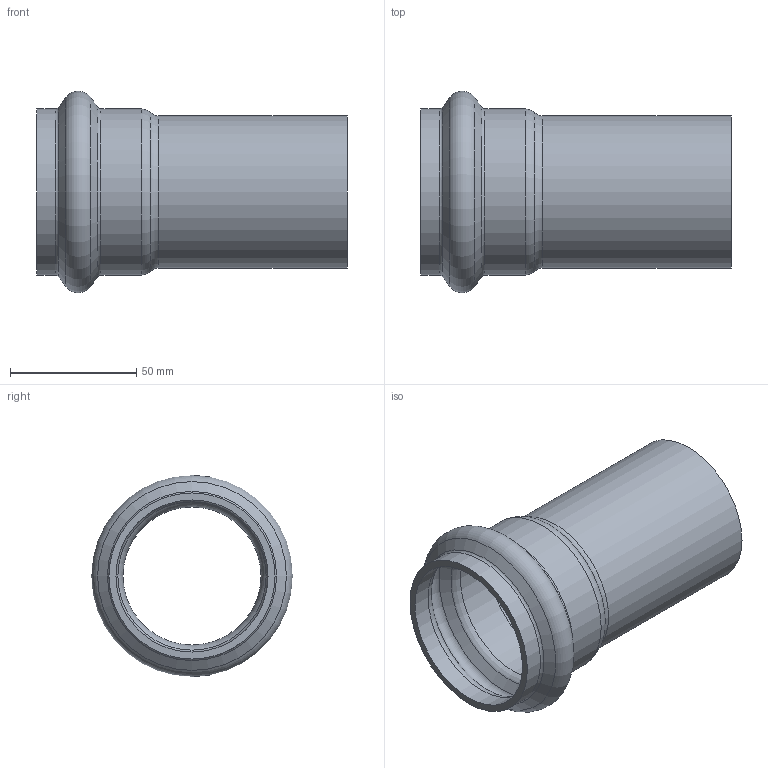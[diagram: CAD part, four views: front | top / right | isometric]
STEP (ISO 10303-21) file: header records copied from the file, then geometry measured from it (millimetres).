
FILE_DESCRIPTION(/* description */ ('VIC WELD ADAPTER STYLE P561 (P X T)','CAx-IF Rec.Pracs.---Representation and Presentation of Product Manufacturing Information (PMI)---4.0---2014-10-13'),/* implementation_level */ '2;1');
FILE_NAME(/* name */ 'C:\Users\Vjadhav\AppData\Roaming\Autodesk\ApplicationPlugins\Back Up\Victaulic_SS-Vic-Press-TP 304_Adapter Weld_Style P561 (VPxPE)\Victaulic_SS-Vic-Press-TP 304_Adapter Weld_Style P561 (VPxPE)_2 (50).stp',/* time_stamp */ '2020-08-12T15:21:27+06:00',/* author */ ('cgray'),/* organization */ ('Victaulic'),/* preprocessor_version */ 'ST-DEVELOPER v17.2',/* originating_system */ 'Autodesk Inventor 2019',/* authorisation */ '');
FILE_SCHEMA (('AP242_MANAGED_MODEL_BASED_3D_ENGINEERING_MIM_LF { 1 0 10303 442 1 1 4 }'));
Length unit declared in the file: inch
Products named in the file (1): P561-02.0
Bounding box: 123.19 x 79.89 x 79.89 mm (x, y, z)
Volume: 69033.5 mm3; surface area: 50918.3 mm2
Topology: 1 solids, 1 shells, 22 faces, 80 edges, 60 vertices
Faces by surface type: torus 10, cylinder 6, cone 4, plane 2
Full cylindrical faces by diameter (mm): 54.788 x1, 60.325 x3, 65.862 x2
Entity records: 1092 total; most frequent: DIRECTION 222, CARTESIAN_POINT 180, ORIENTED_EDGE 160, AXIS2_PLACEMENT_3D 106, EDGE_CURVE 80, CIRCLE 70, VERTEX_POINT 60, EDGE_LOOP 24
